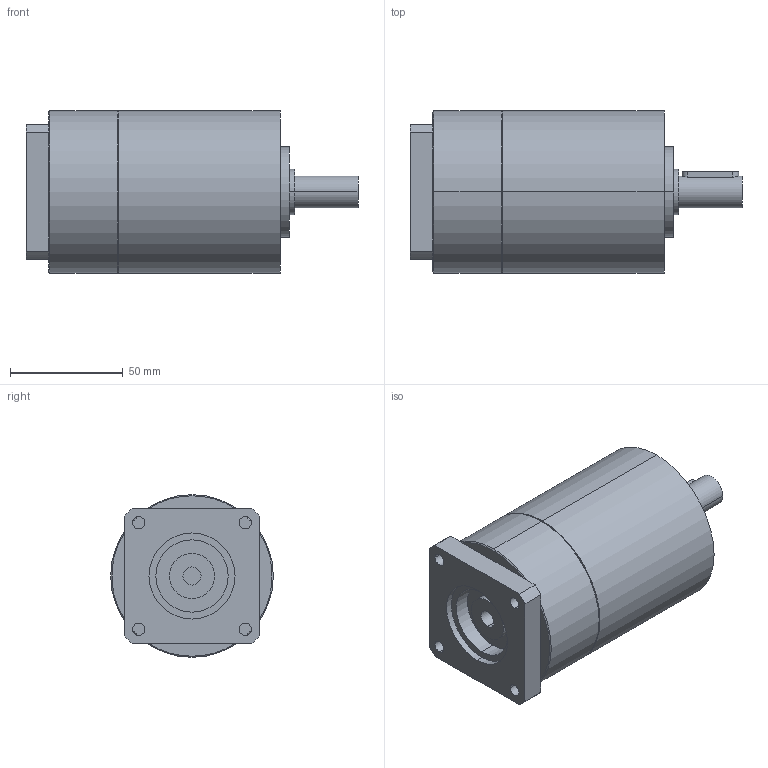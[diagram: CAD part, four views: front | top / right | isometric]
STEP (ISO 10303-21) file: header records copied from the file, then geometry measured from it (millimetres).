
FILE_DESCRIPTION(('CoCreate Modeling STEP Export'),'2;1');
FILE_NAME('GPT75_ig-9-12-16-20-25-28-35-40-50-70-100_14_B14T_8_P02.stp','2014-08-27T13:23:48',(''),(''),'CoCreate Modeling STEP processor for AP214 (Solid Model)','CoCreate Modeling 16.00C 25-Feb-2009 (C) Parametric Technology GmbH','');
FILE_SCHEMA(('AUTOMOTIVE_DESIGN { 1 0 10303 214 1 1 1 1 }'));
Length unit declared in the file: millimetre
Products named in the file (2): GPT75_ig-9-12-16-20-25-28-35-40-50-70-100_14_B14T_8_P02
Assembly tree (1 placements, depth 2):
  GPT75_ig-9-12-16-20-25-28-35-40-50-70-100_14_B14T_8_P02
    GPT75_ig-9-12-16-20-25-28-35-40-50-70-100_14_B14T_8_P02
Bounding box: 147 x 72 x 72 mm (x, y, z)
Volume: 451881 mm3; surface area: 39707.9 mm2
Topology: 1 solids, 1 shells, 80 faces, 198 edges, 129 vertices
Faces by surface type: cylinder 42, plane 34, cone 4
Entity records: 2353 total; most frequent: CARTESIAN_POINT 689, ORIENTED_EDGE 396, DIRECTION 276, EDGE_CURVE 198, VERTEX_POINT 129, AXIS2_PLACEMENT_3D 104, EDGE_LOOP 97, FACE_OUTER_BOUND 80
